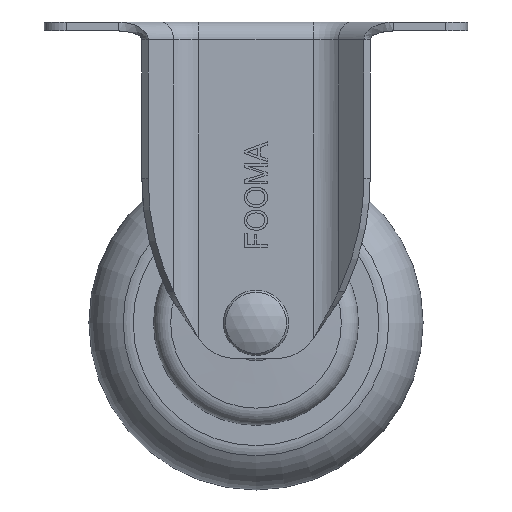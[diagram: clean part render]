
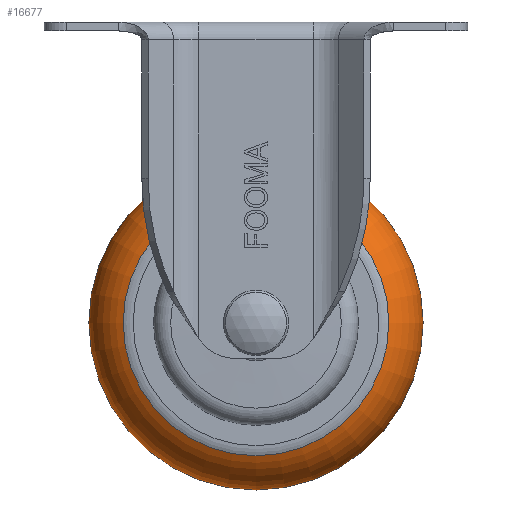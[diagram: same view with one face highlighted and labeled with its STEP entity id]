
A CAD part, front view. The second image highlights one B-rep face of the part: STEP entity #16677.
In plain terms, the highlighted toroidal (fillet/blend) face has major radius 23.51 mm and minor radius 14 mm.
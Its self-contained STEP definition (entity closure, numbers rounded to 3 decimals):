
#88=TOROIDAL_SURFACE('',#17638,23.51,14.);
#5322=FACE_BOUND('',#6304,.T.);
#5385=FACE_OUTER_BOUND('',#6303,.T.);
#6303=EDGE_LOOP('',(#11725));
#6304=EDGE_LOOP('',(#11726));
#7313=CIRCLE('',#17636,29.807);
#7315=CIRCLE('',#17639,37.5);
#7589=VERTEX_POINT('',#23366);
#7591=VERTEX_POINT('',#23371);
#9233=EDGE_CURVE('',#7589,#7589,#7313,.T.);
#9235=EDGE_CURVE('',#7591,#7591,#7315,.T.);
#11725=ORIENTED_EDGE('',*,*,#9233,.F.);
#11726=ORIENTED_EDGE('',*,*,#9235,.F.);
#16677=ADVANCED_FACE('',(#5385,#5322),#88,.T.);
#17636=AXIS2_PLACEMENT_3D('',#23367,#18868,#18869);
#17638=AXIS2_PLACEMENT_3D('',#23370,#18872,#18873);
#17639=AXIS2_PLACEMENT_3D('',#23372,#18874,#18875);
#18868=DIRECTION('center_axis',(0.,-1.,0.));
#18869=DIRECTION('ref_axis',(1.,0.,0.));
#18872=DIRECTION('center_axis',(0.,-1.,0.));
#18873=DIRECTION('ref_axis',(0.,0.,-1.));
#18874=DIRECTION('center_axis',(0.,1.,0.));
#18875=DIRECTION('ref_axis',(0.,0.,-1.));
#23366=CARTESIAN_POINT('',(0.,-11.966,-37.693));
#23367=CARTESIAN_POINT('Origin',(0.,-11.966,-67.5));
#23370=CARTESIAN_POINT('Origin',(0.,0.538,-67.5));
#23371=CARTESIAN_POINT('',(0.,0.,-30.));
#23372=CARTESIAN_POINT('Origin',(0.,0.,-67.5));
